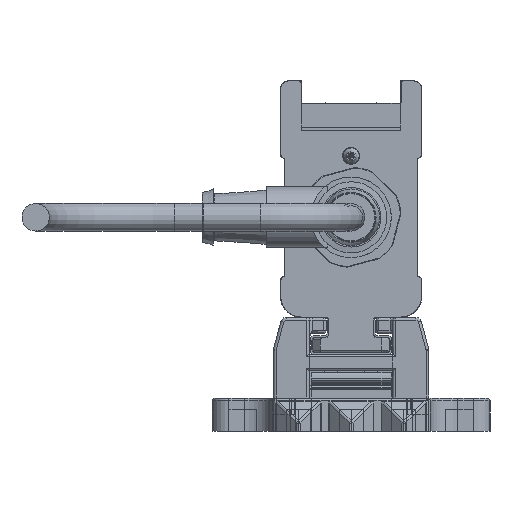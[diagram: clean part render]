
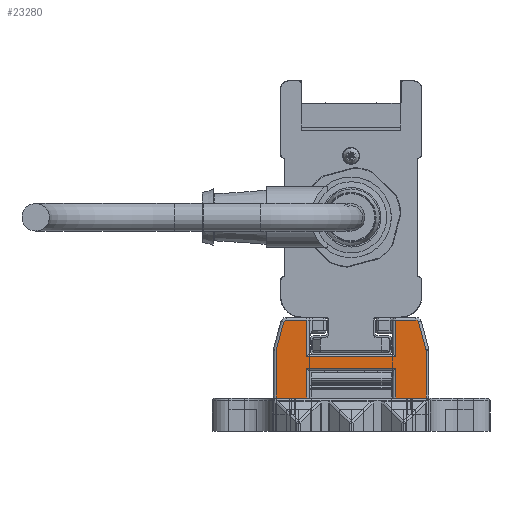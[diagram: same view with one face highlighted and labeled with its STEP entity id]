
A CAD part, left-side view. The second image highlights one B-rep face of the part: STEP entity #23280.
In plain terms, the highlighted planar face has unit normal (-1, 0, 0).
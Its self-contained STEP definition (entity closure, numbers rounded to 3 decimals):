
#23280=ADVANCED_FACE('', (#23290), #23300, .T.);
#141290=AXIS2_PLACEMENT_3D('Ax2Pl3d', #141300, #141310, #141320);
#141530=AXIS2_PLACEMENT_3D('Ax2Pl3d', #141540, #141550, #141560);
#146410=AXIS2_PLACEMENT_3D('Ax2Pl3d', #146420, #146430, #146440);
#151490=AXIS2_PLACEMENT_3D('Ax2Pl3d', #151500, #151510, #151520);
#161170=AXIS2_PLACEMENT_3D('Ax2Pl3d', #161180, #161190, #161200);
#583560=CARTESIAN_POINT('', (-747.669,-2886.345,331.37)
);
#141300=CARTESIAN_POINT('HicPkt', (-747.669,-2885.379,
331.111));
#583570=CARTESIAN_POINT('', (-747.669,-2886.379,
331.111));
#583580=CARTESIAN_POINT('', (-747.669,-2885.037,
336.255));
#583600=CARTESIAN_POINT('', (-747.669,-2885.037,
336.255));
#583630=CARTESIAN_POINT('', (-747.669,-2884.554,
336.625));
#141540=CARTESIAN_POINT('HicPkt', (-747.669,-2884.554,
336.125));
#583850=CARTESIAN_POINT('', (-747.669,-2886.379,
322.625));
#583860=CARTESIAN_POINT('', (-747.669,-2880.881,
322.625));
#583870=CARTESIAN_POINT('', (-747.669,-2880.881,
322.625));
#583950=CARTESIAN_POINT('', (-747.669,-2864.881,
322.625));
#583960=CARTESIAN_POINT('', (-747.669,-2859.383,
322.625));
#583970=CARTESIAN_POINT('', (-747.669,-2859.383,
322.625));
#146420=CARTESIAN_POINT('HicPkt', (-747.669,-2861.209,
336.125));
#586440=CARTESIAN_POINT('', (-747.669,-2860.726,
336.255));
#586450=CARTESIAN_POINT('', (-747.669,-2861.209,
336.625));
#586460=CARTESIAN_POINT('', (-747.669,-2880.881,330.025)
);
#586470=CARTESIAN_POINT('', (-747.669,-2864.881,
330.025));
#586480=CARTESIAN_POINT('', (-747.669,-2880.881,330.025)
);
#586640=CARTESIAN_POINT('', (-747.669,-2880.881,
328.005));
#586650=CARTESIAN_POINT('', (-747.669,-2864.881,
328.005));
#586660=CARTESIAN_POINT('', (-747.669,-2864.881,
328.005));
#586670=CARTESIAN_POINT('', (-747.669,-2880.881,
328.005));
#586690=CARTESIAN_POINT('', (-747.669,-2864.881,
322.625));
#586700=CARTESIAN_POINT('', (-747.669,-2864.881,
330.025));
#586710=CARTESIAN_POINT('', (-747.669,-2864.881,336.625)
);
#587560=CARTESIAN_POINT('', (-747.669,-2864.881,336.625)
);
#587570=CARTESIAN_POINT('', (-747.669,-2860.726,
336.255));
#587580=CARTESIAN_POINT('', (-747.669,-2859.417,331.37)
);
#587770=CARTESIAN_POINT('', (-747.669,-2859.383,
331.111));
#587780=CARTESIAN_POINT('', (-747.669,-2859.383,
331.111));
#151500=CARTESIAN_POINT('HicPkt', (-747.669,-2860.383,
331.111));
#588590=CARTESIAN_POINT('', (-747.669,-2886.379,
331.111));
#161180=CARTESIAN_POINT('HicPkt', (-747.669,-2884.554,
336.625));
#590390=CARTESIAN_POINT('', (-747.669,-2880.881,
336.625));
#590400=CARTESIAN_POINT('', (-747.669,-2880.881,
336.625));
#590410=CARTESIAN_POINT('', (-747.669,-2880.881,
336.625));
#675070=CIRCLE('Circle', #141290, 1.);
#675110=CIRCLE('Circle', #141530, 0.5);
#675690=CIRCLE('Circle', #146410, 0.5);
#676220=CIRCLE('Circle', #151490, 1.);
#141310=DIRECTION('Axis', (-1.,0.,
0.));
#141320=DIRECTION('RefDirection', (0.,
0.,-1.));
#942570=DIRECTION('', (0.,0.259,
0.966));
#141550=DIRECTION('Axis', (-1.,0.,
0.));
#141560=DIRECTION('RefDirection', (0.,
0.,-1.));
#942680=DIRECTION('', (0.,1.,0.));
#942720=DIRECTION('', (0.,1.,0.));
#146430=DIRECTION('Axis', (1.,0.,
0.));
#146440=DIRECTION('RefDirection', (0.,
0.,-1.));
#943910=DIRECTION('', (0.,-1.,0.));
#944010=DIRECTION('', (0.,1.,0.));
#944020=DIRECTION('', (0.,0.,1.));
#944040=DIRECTION('', (0.,0.,-1.));
#944050=DIRECTION('', (0.,0.,-1.));
#944480=DIRECTION('', (0.,-1.,0.));
#944490=DIRECTION('', (0.,-0.259,0.966));
#944580=DIRECTION('', (0.,0.,1.));
#151510=DIRECTION('Axis', (1.,0.,
0.));
#151520=DIRECTION('RefDirection', (0.,
0.,-1.));
#944950=DIRECTION('', (0.,0.,1.));
#161190=DIRECTION('Axis', (-1.,0.,
0.));
#161200=DIRECTION('RefDirection', (0.,
0.,-1.));
#945790=DIRECTION('', (0.,1.,0.));
#945800=DIRECTION('', (0.,0.,1.));
#1009400=EDGE_CURVE('', #1009410, #1009390, #675070, .T.);
#1009460=EDGE_CURVE('', #1009390, #1009440, #1009470, .T.);
#1009530=EDGE_CURVE('', #1009440, #1009520, #675110, .T.);
#1009980=EDGE_CURVE('', #1009970, #1009990, #1010000, .T.);
#1010140=EDGE_CURVE('', #1010130, #1010150, #1010160, .T.);
#1014500=EDGE_CURVE('', #1014510, #1014520, #675690, .T.);
#1014550=EDGE_CURVE('', #1014560, #1014570, #1014580, .T.);
#1014920=EDGE_CURVE('', #1014900, #1014930, #1014940, .T.);
#1014970=EDGE_CURVE('', #1009990, #1014900, #1014980, .T.);
#1015010=EDGE_CURVE('', #1014930, #1010130, #1015020, .T.);
#1015030=EDGE_CURVE('', #1015040, #1014560, #1015050, .T.);
#1016870=EDGE_CURVE('', #1014520, #1015040, #1016880, .T.);
#1016940=EDGE_CURVE('', #1016950, #1014510, #1016960, .T.);
#1017380=EDGE_CURVE('', #1010150, #1017390, #1017400, .T.);
#1017420=EDGE_CURVE('', #1017390, #1016950, #676220, .T.);
#1019130=EDGE_CURVE('', #1009970, #1009410, #1019140, .T.);
#1022940=EDGE_CURVE('', #1009520, #1022950, #1022960, .T.);
#1022970=EDGE_CURVE('', #1014570, #1022950, #1022980, .T.);
#1216860=EDGE_LOOP('Edge_loop', (#1216870,#1216880,#1216890,#1216900,
#1216910,#1216920,#1216930,#1216940,#1216950,#1216960,#1216970,
#1216980,#1216990,#1217000,#1217010,#1217020,#1217030,#1217040));
#23290=FACE_OUTER_BOUND('Face_outer_bound', #1216860, .T.);
#1009470=LINE('Line', #583600, #1391440);
#1010000=LINE('Line', #583860, #1391550);
#1010160=LINE('Line', #583960, #1391590);
#1014580=LINE('Line', #586460, #1392780);
#1014940=LINE('Line', #586650, #1392880);
#1014980=LINE('Line', #586670, #1392890);
#1015020=LINE('Line', #586690, #1392910);
#1015050=LINE('Line', #586700, #1392920);
#1016880=LINE('Line', #587560, #1393350);
#1016960=LINE('Line', #587570, #1393360);
#1017400=LINE('Line', #587770, #1393450);
#1019140=LINE('Line', #588590, #1393820);
#1022960=LINE('Line', #590390, #1394660);
#1022980=LINE('Line', #590410, #1394670);
#1216870=ORIENTED_EDGE('', *, *, #1022940, .T.);
#1216880=ORIENTED_EDGE('', *, *, #1022970, .F.);
#1216890=ORIENTED_EDGE('', *, *, #1014550, .F.);
#1216900=ORIENTED_EDGE('', *, *, #1015030, .F.);
#1216910=ORIENTED_EDGE('', *, *, #1016870, .F.);
#1216920=ORIENTED_EDGE('', *, *, #1014500, .F.);
#1216930=ORIENTED_EDGE('', *, *, #1016940, .F.);
#1216940=ORIENTED_EDGE('', *, *, #1017420, .F.);
#1216950=ORIENTED_EDGE('', *, *, #1017380, .F.);
#1216960=ORIENTED_EDGE('', *, *, #1010140, .F.);
#1216970=ORIENTED_EDGE('', *, *, #1015010, .F.);
#1216980=ORIENTED_EDGE('', *, *, #1014920, .F.);
#1216990=ORIENTED_EDGE('', *, *, #1014970, .F.);
#1217000=ORIENTED_EDGE('', *, *, #1009980, .F.);
#1217010=ORIENTED_EDGE('', *, *, #1019130, .T.);
#1217020=ORIENTED_EDGE('', *, *, #1009400, .T.);
#1217030=ORIENTED_EDGE('', *, *, #1009460, .T.);
#1217040=ORIENTED_EDGE('', *, *, #1009530, .T.);
#23300=PLANE('Plane', #161170);
#1391440=VECTOR('', #942570, 5.057);
#1391550=VECTOR('', #942680, 5.498);
#1391590=VECTOR('', #942720, 5.498);
#1392780=VECTOR('', #943910, 16.);
#1392880=VECTOR('', #944010, 16.);
#1392890=VECTOR('', #944020, 5.38);
#1392910=VECTOR('', #944040, 5.38);
#1392920=VECTOR('', #944050, 6.6);
#1393350=VECTOR('', #944480, 3.672);
#1393360=VECTOR('', #944490, 5.057);
#1393450=VECTOR('', #944580, 8.486);
#1393820=VECTOR('', #944950, 8.486);
#1394660=VECTOR('', #945790, 3.672);
#1394670=VECTOR('', #945800, 6.6);
#1009390=VERTEX_POINT('', #583560);
#1009410=VERTEX_POINT('', #583570);
#1009440=VERTEX_POINT('', #583580);
#1009520=VERTEX_POINT('', #583630);
#1009970=VERTEX_POINT('', #583850);
#1009990=VERTEX_POINT('', #583870);
#1010130=VERTEX_POINT('', #583950);
#1010150=VERTEX_POINT('', #583970);
#1014510=VERTEX_POINT('', #586440);
#1014520=VERTEX_POINT('', #586450);
#1014560=VERTEX_POINT('', #586470);
#1014570=VERTEX_POINT('', #586480);
#1014900=VERTEX_POINT('', #586640);
#1014930=VERTEX_POINT('', #586660);
#1015040=VERTEX_POINT('', #586710);
#1016950=VERTEX_POINT('', #587580);
#1017390=VERTEX_POINT('', #587780);
#1022950=VERTEX_POINT('', #590400);
